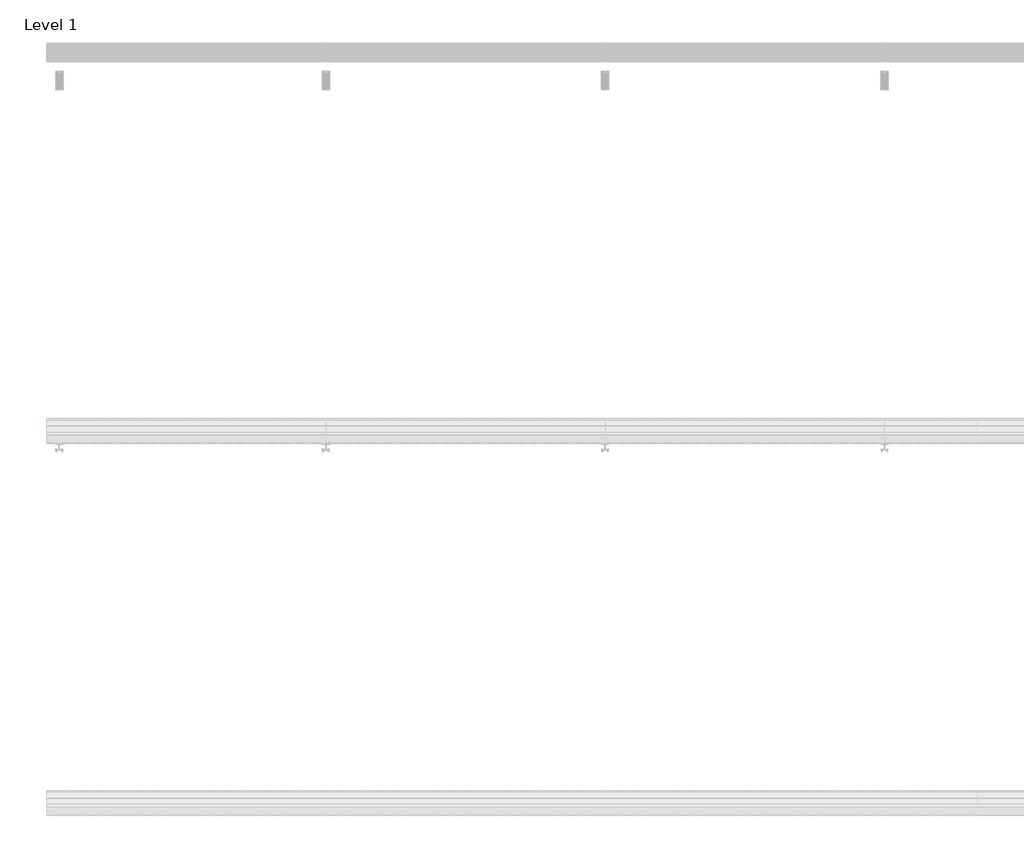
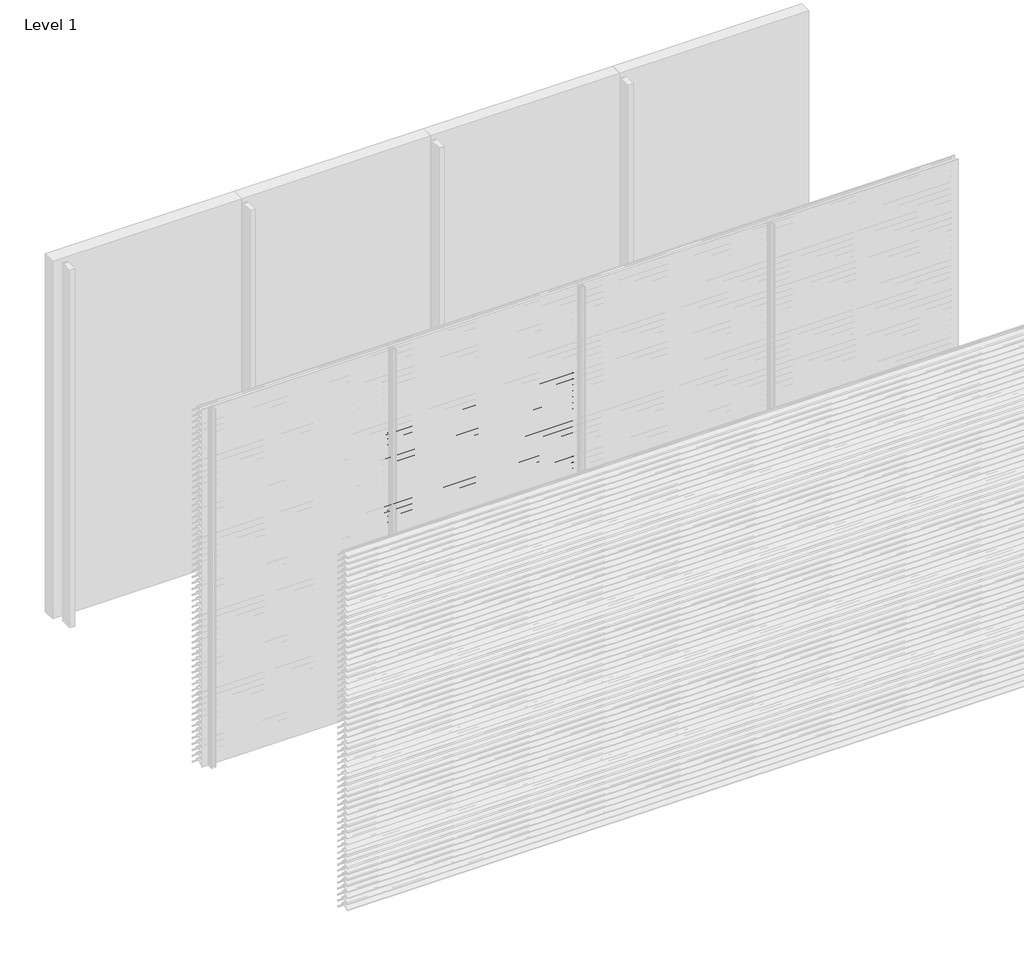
# One storey, part 45 of 173: 17 proxies.
"""IFC4 building model written with IfcOpenShell, lengths in millimetres."""

from ifc_helpers import new_model, si_unit, point, frame, frame_2d, origin, place, context, project, spatial, polyline, circle_curve, trimmed, segment, composite_curve, outline, extrude, element, save

model = new_model("IFC4")

# Units and contexts
model_context = context("Model", 3, world=origin())
ifc_project = project(units=[si_unit("LENGTHUNIT", "METRE", prefix="MILLI")], contexts=[model_context])

# Site, building, storey
site = spatial("IfcSite", under=ifc_project)
building = spatial("IfcBuilding", under=site)
storey = spatial("IfcBuildingStorey", under=building, Name="Level 1", Elevation=0.0)

# Proxies
placement = place(None, origin())
element("IfcBuildingElementProxy", 1, Name="Wall Sweeps", at=placement, inside=storey, context=model_context, shape_type="SweptSolid", body=[
    extrude(outline(composite_curve([segment(polyline([(-41998.0, 2209.1474905), (-41998.0, 2211.6227417)]), True, "CONTINUOUS"), segment(trimmed(circle_curve(frame_2d((-41951.2682172, 2166.2200208)), 65.1557103), [point((-41998.0, 2211.6227417))], [point((-41954.4014323, 2231.3003524))], False, "CARTESIAN"), True, "CONTINUOUS"), segment(polyline([(-41954.4014323, 2231.3003524), (-41934.8315836, 2231.3003524)]), True, "CONTINUOUS"), segment(trimmed(circle_curve(frame_2d((-41732.7329489, 2378.5533172)), 250.0545817), [point((-41934.8315836, 2231.3003524))], [point((-41941.4452143, 2240.8344583))], False, "CARTESIAN"), True, "CONTINUOUS"), segment(trimmed(circle_curve(frame_2d((-41953.2981792, 2235.1737835)), 13.1352966), [point((-41941.4452143, 2240.8344583))], [point((-41953.8171475, 2248.298824))], True, "CARTESIAN"), True, "CONTINUOUS"), segment(polyline([(-41953.8171475, 2248.298824), (-41953.8171475, 2250.0)]), True, "CONTINUOUS"), segment(trimmed(circle_curve(frame_2d((-41953.2981792, 2235.1737835)), 14.8352966), [point((-41953.8171475, 2250.0))], [point((-41939.9637661, 2241.6760487))], False, "CARTESIAN"), True, "CONTINUOUS"), segment(trimmed(circle_curve(frame_2d((-41732.7329489, 2378.5533172)), 248.3545817), [point((-41939.9637661, 2241.6760487))], [point((-41873.8787895, 2174.2059416))], True, "CARTESIAN"), True, "CONTINUOUS"), segment(trimmed(circle_curve(frame_2d((-41883.8147537, 2161.6649442)), 16.0), [point((-41873.8787895, 2174.2059416))], [point((-41867.8648347, 2160.4))], False, "CARTESIAN"), True, "CONTINUOUS"), segment(polyline([(-41867.8648347, 2160.4), (-41869.6712069, 2160.4)]), True, "CONTINUOUS"), segment(trimmed(circle_curve(frame_2d((-41883.8147537, 2161.6649442)), 14.2), [point((-41869.6712069, 2160.4))], [point((-41874.9518628, 2172.7594998))], True, "CARTESIAN"), True, "CONTINUOUS"), segment(trimmed(circle_curve(frame_2d((-41732.7329489, 2378.5533172)), 250.1545817), [point((-41874.9518628, 2172.7594998))], [point((-41933.7064024, 2229.6003524))], False, "CARTESIAN"), True, "CONTINUOUS"), segment(polyline([(-41933.7064024, 2229.6003524), (-41954.3602632, 2229.6003524)]), True, "CONTINUOUS"), segment(trimmed(circle_curve(frame_2d((-41951.2682172, 2166.2200208)), 63.4557103), [point((-41954.3602632, 2229.6003524))], [point((-41998.0, 2209.1474905))], True, "CARTESIAN"), True, "CONTINUOUS")], self_intersect=False)), frame((1500.0, 0.0, 0.0), z_axis=(1.0, 0.0, 0.0), x_axis=(0.0, 1.0, 0.0)), (0.0, 0.0, 1.0), 1500.0),
])
element("IfcBuildingElementProxy", 2, Name="Wall Sweeps", at=placement, inside=storey, context=model_context, shape_type="SweptSolid", body=[
    extrude(outline(composite_curve([segment(polyline([(-41998.0, 2159.1474905), (-41998.0, 2161.6227417)]), True, "CONTINUOUS"), segment(trimmed(circle_curve(frame_2d((-41951.2682172, 2116.2200208)), 65.1557103), [point((-41998.0, 2161.6227417))], [point((-41954.4014323, 2181.3003524))], False, "CARTESIAN"), True, "CONTINUOUS"), segment(polyline([(-41954.4014323, 2181.3003524), (-41934.8315836, 2181.3003524)]), True, "CONTINUOUS"), segment(trimmed(circle_curve(frame_2d((-41732.7329489, 2328.5533172)), 250.0545817), [point((-41934.8315836, 2181.3003524))], [point((-41941.4452143, 2190.8344583))], False, "CARTESIAN"), True, "CONTINUOUS"), segment(trimmed(circle_curve(frame_2d((-41953.2981792, 2185.1737835)), 13.1352966), [point((-41941.4452143, 2190.8344583))], [point((-41953.8171475, 2198.298824))], True, "CARTESIAN"), True, "CONTINUOUS"), segment(polyline([(-41953.8171475, 2198.298824), (-41953.8171475, 2200.0)]), True, "CONTINUOUS"), segment(trimmed(circle_curve(frame_2d((-41953.2981792, 2185.1737835)), 14.8352966), [point((-41953.8171475, 2200.0))], [point((-41939.9637661, 2191.6760487))], False, "CARTESIAN"), True, "CONTINUOUS"), segment(trimmed(circle_curve(frame_2d((-41732.7329489, 2328.5533172)), 248.3545817), [point((-41939.9637661, 2191.6760487))], [point((-41873.8787895, 2124.2059416))], True, "CARTESIAN"), True, "CONTINUOUS"), segment(trimmed(circle_curve(frame_2d((-41883.8147537, 2111.6649442)), 16.0), [point((-41873.8787895, 2124.2059416))], [point((-41867.8648347, 2110.4))], False, "CARTESIAN"), True, "CONTINUOUS"), segment(polyline([(-41867.8648347, 2110.4), (-41869.6712069, 2110.4)]), True, "CONTINUOUS"), segment(trimmed(circle_curve(frame_2d((-41883.8147537, 2111.6649442)), 14.2), [point((-41869.6712069, 2110.4))], [point((-41874.9518628, 2122.7594998))], True, "CARTESIAN"), True, "CONTINUOUS"), segment(trimmed(circle_curve(frame_2d((-41732.7329489, 2328.5533172)), 250.1545817), [point((-41874.9518628, 2122.7594998))], [point((-41933.7064024, 2179.6003524))], False, "CARTESIAN"), True, "CONTINUOUS"), segment(polyline([(-41933.7064024, 2179.6003524), (-41954.3602632, 2179.6003524)]), True, "CONTINUOUS"), segment(trimmed(circle_curve(frame_2d((-41951.2682172, 2116.2200208)), 63.4557103), [point((-41954.3602632, 2179.6003524))], [point((-41998.0, 2159.1474905))], True, "CARTESIAN"), True, "CONTINUOUS")], self_intersect=False)), frame((1500.0, 0.0, 0.0), z_axis=(1.0, 0.0, 0.0), x_axis=(0.0, 1.0, 0.0)), (0.0, 0.0, 1.0), 1500.0),
])
element("IfcBuildingElementProxy", 3, Name="Wall Sweeps", at=placement, inside=storey, context=model_context, shape_type="SweptSolid", body=[
    extrude(outline(composite_curve([segment(polyline([(-41998.0, 2109.1474905), (-41998.0, 2111.6227417)]), True, "CONTINUOUS"), segment(trimmed(circle_curve(frame_2d((-41951.2682172, 2066.2200208)), 65.1557103), [point((-41998.0, 2111.6227417))], [point((-41954.4014323, 2131.3003524))], False, "CARTESIAN"), True, "CONTINUOUS"), segment(polyline([(-41954.4014323, 2131.3003524), (-41934.8315836, 2131.3003524)]), True, "CONTINUOUS"), segment(trimmed(circle_curve(frame_2d((-41732.7329489, 2278.5533172)), 250.0545817), [point((-41934.8315836, 2131.3003524))], [point((-41941.4452143, 2140.8344583))], False, "CARTESIAN"), True, "CONTINUOUS"), segment(trimmed(circle_curve(frame_2d((-41953.2981792, 2135.1737835)), 13.1352966), [point((-41941.4452143, 2140.8344583))], [point((-41953.8171475, 2148.298824))], True, "CARTESIAN"), True, "CONTINUOUS"), segment(polyline([(-41953.8171475, 2148.298824), (-41953.8171475, 2150.0)]), True, "CONTINUOUS"), segment(trimmed(circle_curve(frame_2d((-41953.2981792, 2135.1737835)), 14.8352966), [point((-41953.8171475, 2150.0))], [point((-41939.9637661, 2141.6760487))], False, "CARTESIAN"), True, "CONTINUOUS"), segment(trimmed(circle_curve(frame_2d((-41732.7329489, 2278.5533172)), 248.3545817), [point((-41939.9637661, 2141.6760487))], [point((-41873.8787895, 2074.2059416))], True, "CARTESIAN"), True, "CONTINUOUS"), segment(trimmed(circle_curve(frame_2d((-41883.8147537, 2061.6649442)), 16.0), [point((-41873.8787895, 2074.2059416))], [point((-41867.8648347, 2060.4))], False, "CARTESIAN"), True, "CONTINUOUS"), segment(polyline([(-41867.8648347, 2060.4), (-41869.6712069, 2060.4)]), True, "CONTINUOUS"), segment(trimmed(circle_curve(frame_2d((-41883.8147537, 2061.6649442)), 14.2), [point((-41869.6712069, 2060.4))], [point((-41874.9518628, 2072.7594998))], True, "CARTESIAN"), True, "CONTINUOUS"), segment(trimmed(circle_curve(frame_2d((-41732.7329489, 2278.5533172)), 250.1545817), [point((-41874.9518628, 2072.7594998))], [point((-41933.7064024, 2129.6003524))], False, "CARTESIAN"), True, "CONTINUOUS"), segment(polyline([(-41933.7064024, 2129.6003524), (-41954.3602632, 2129.6003524)]), True, "CONTINUOUS"), segment(trimmed(circle_curve(frame_2d((-41951.2682172, 2066.2200208)), 63.4557103), [point((-41954.3602632, 2129.6003524))], [point((-41998.0, 2109.1474905))], True, "CARTESIAN"), True, "CONTINUOUS")], self_intersect=False)), frame((1500.0, 0.0, 0.0), z_axis=(1.0, 0.0, 0.0), x_axis=(0.0, 1.0, 0.0)), (0.0, 0.0, 1.0), 1500.0),
])
element("IfcBuildingElementProxy", 4, Name="Wall Sweeps", at=placement, inside=storey, context=model_context, shape_type="SweptSolid", body=[
    extrude(outline(composite_curve([segment(polyline([(-41998.0, 2059.1474905), (-41998.0, 2061.6227417)]), True, "CONTINUOUS"), segment(trimmed(circle_curve(frame_2d((-41951.2682172, 2016.2200208)), 65.1557103), [point((-41998.0, 2061.6227417))], [point((-41954.4014323, 2081.3003524))], False, "CARTESIAN"), True, "CONTINUOUS"), segment(polyline([(-41954.4014323, 2081.3003524), (-41934.8315836, 2081.3003524)]), True, "CONTINUOUS"), segment(trimmed(circle_curve(frame_2d((-41732.7329489, 2228.5533172)), 250.0545817), [point((-41934.8315836, 2081.3003524))], [point((-41941.4452143, 2090.8344583))], False, "CARTESIAN"), True, "CONTINUOUS"), segment(trimmed(circle_curve(frame_2d((-41953.2981792, 2085.1737835)), 13.1352966), [point((-41941.4452143, 2090.8344583))], [point((-41953.8171475, 2098.298824))], True, "CARTESIAN"), True, "CONTINUOUS"), segment(polyline([(-41953.8171475, 2098.298824), (-41953.8171475, 2100.0)]), True, "CONTINUOUS"), segment(trimmed(circle_curve(frame_2d((-41953.2981792, 2085.1737835)), 14.8352966), [point((-41953.8171475, 2100.0))], [point((-41939.9637661, 2091.6760487))], False, "CARTESIAN"), True, "CONTINUOUS"), segment(trimmed(circle_curve(frame_2d((-41732.7329489, 2228.5533172)), 248.3545817), [point((-41939.9637661, 2091.6760487))], [point((-41873.8787895, 2024.2059416))], True, "CARTESIAN"), True, "CONTINUOUS"), segment(trimmed(circle_curve(frame_2d((-41883.8147537, 2011.6649442)), 16.0), [point((-41873.8787895, 2024.2059416))], [point((-41867.8648347, 2010.4))], False, "CARTESIAN"), True, "CONTINUOUS"), segment(polyline([(-41867.8648347, 2010.4), (-41869.6712069, 2010.4)]), True, "CONTINUOUS"), segment(trimmed(circle_curve(frame_2d((-41883.8147537, 2011.6649442)), 14.2), [point((-41869.6712069, 2010.4))], [point((-41874.9518628, 2022.7594998))], True, "CARTESIAN"), True, "CONTINUOUS"), segment(trimmed(circle_curve(frame_2d((-41732.7329489, 2228.5533172)), 250.1545817), [point((-41874.9518628, 2022.7594998))], [point((-41933.7064024, 2079.6003524))], False, "CARTESIAN"), True, "CONTINUOUS"), segment(polyline([(-41933.7064024, 2079.6003524), (-41954.3602632, 2079.6003524)]), True, "CONTINUOUS"), segment(trimmed(circle_curve(frame_2d((-41951.2682172, 2016.2200208)), 63.4557103), [point((-41954.3602632, 2079.6003524))], [point((-41998.0, 2059.1474905))], True, "CARTESIAN"), True, "CONTINUOUS")], self_intersect=False)), frame((1500.0, 0.0, 0.0), z_axis=(1.0, 0.0, 0.0), x_axis=(0.0, 1.0, 0.0)), (0.0, 0.0, 1.0), 1500.0),
])
element("IfcBuildingElementProxy", 5, Name="Wall Sweeps", at=placement, inside=storey, context=model_context, shape_type="SweptSolid", body=[
    extrude(outline(composite_curve([segment(polyline([(-41998.0, 2009.1474905), (-41998.0, 2011.6227417)]), True, "CONTINUOUS"), segment(trimmed(circle_curve(frame_2d((-41951.2682172, 1966.2200208)), 65.1557103), [point((-41998.0, 2011.6227417))], [point((-41954.4014323, 2031.3003524))], False, "CARTESIAN"), True, "CONTINUOUS"), segment(polyline([(-41954.4014323, 2031.3003524), (-41934.8315836, 2031.3003524)]), True, "CONTINUOUS"), segment(trimmed(circle_curve(frame_2d((-41732.7329489, 2178.5533172)), 250.0545817), [point((-41934.8315836, 2031.3003524))], [point((-41941.4452143, 2040.8344583))], False, "CARTESIAN"), True, "CONTINUOUS"), segment(trimmed(circle_curve(frame_2d((-41953.2981792, 2035.1737835)), 13.1352966), [point((-41941.4452143, 2040.8344583))], [point((-41953.8171475, 2048.298824))], True, "CARTESIAN"), True, "CONTINUOUS"), segment(polyline([(-41953.8171475, 2048.298824), (-41953.8171475, 2050.0)]), True, "CONTINUOUS"), segment(trimmed(circle_curve(frame_2d((-41953.2981792, 2035.1737835)), 14.8352966), [point((-41953.8171475, 2050.0))], [point((-41939.9637661, 2041.6760487))], False, "CARTESIAN"), True, "CONTINUOUS"), segment(trimmed(circle_curve(frame_2d((-41732.7329489, 2178.5533172)), 248.3545817), [point((-41939.9637661, 2041.6760487))], [point((-41873.8787895, 1974.2059416))], True, "CARTESIAN"), True, "CONTINUOUS"), segment(trimmed(circle_curve(frame_2d((-41883.8147537, 1961.6649442)), 16.0), [point((-41873.8787895, 1974.2059416))], [point((-41867.8648347, 1960.4))], False, "CARTESIAN"), True, "CONTINUOUS"), segment(polyline([(-41867.8648347, 1960.4), (-41869.6712069, 1960.4)]), True, "CONTINUOUS"), segment(trimmed(circle_curve(frame_2d((-41883.8147537, 1961.6649442)), 14.2), [point((-41869.6712069, 1960.4))], [point((-41874.9518628, 1972.7594998))], True, "CARTESIAN"), True, "CONTINUOUS"), segment(trimmed(circle_curve(frame_2d((-41732.7329489, 2178.5533172)), 250.1545817), [point((-41874.9518628, 1972.7594998))], [point((-41933.7064024, 2029.6003524))], False, "CARTESIAN"), True, "CONTINUOUS"), segment(polyline([(-41933.7064024, 2029.6003524), (-41954.3602632, 2029.6003524)]), True, "CONTINUOUS"), segment(trimmed(circle_curve(frame_2d((-41951.2682172, 1966.2200208)), 63.4557103), [point((-41954.3602632, 2029.6003524))], [point((-41998.0, 2009.1474905))], True, "CARTESIAN"), True, "CONTINUOUS")], self_intersect=False)), frame((1500.0, 0.0, 0.0), z_axis=(1.0, 0.0, 0.0), x_axis=(0.0, 1.0, 0.0)), (0.0, 0.0, 1.0), 1500.0),
])
element("IfcBuildingElementProxy", 6, Name="Wall Sweeps", at=placement, inside=storey, context=model_context, shape_type="SweptSolid", body=[
    extrude(outline(composite_curve([segment(polyline([(-41998.0, 1959.1474905), (-41998.0, 1961.6227417)]), True, "CONTINUOUS"), segment(trimmed(circle_curve(frame_2d((-41951.2682172, 1916.2200208)), 65.1557103), [point((-41998.0, 1961.6227417))], [point((-41954.4014323, 1981.3003524))], False, "CARTESIAN"), True, "CONTINUOUS"), segment(polyline([(-41954.4014323, 1981.3003524), (-41934.8315836, 1981.3003524)]), True, "CONTINUOUS"), segment(trimmed(circle_curve(frame_2d((-41732.7329489, 2128.5533172)), 250.0545817), [point((-41934.8315836, 1981.3003524))], [point((-41941.4452143, 1990.8344583))], False, "CARTESIAN"), True, "CONTINUOUS"), segment(trimmed(circle_curve(frame_2d((-41953.2981792, 1985.1737835)), 13.1352966), [point((-41941.4452143, 1990.8344583))], [point((-41953.8171475, 1998.298824))], True, "CARTESIAN"), True, "CONTINUOUS"), segment(polyline([(-41953.8171475, 1998.298824), (-41953.8171475, 2000.0)]), True, "CONTINUOUS"), segment(trimmed(circle_curve(frame_2d((-41953.2981792, 1985.1737835)), 14.8352966), [point((-41953.8171475, 2000.0))], [point((-41939.9637661, 1991.6760487))], False, "CARTESIAN"), True, "CONTINUOUS"), segment(trimmed(circle_curve(frame_2d((-41732.7329489, 2128.5533172)), 248.3545817), [point((-41939.9637661, 1991.6760487))], [point((-41873.8787895, 1924.2059416))], True, "CARTESIAN"), True, "CONTINUOUS"), segment(trimmed(circle_curve(frame_2d((-41883.8147537, 1911.6649442)), 16.0), [point((-41873.8787895, 1924.2059416))], [point((-41867.8648347, 1910.4))], False, "CARTESIAN"), True, "CONTINUOUS"), segment(polyline([(-41867.8648347, 1910.4), (-41869.6712069, 1910.4)]), True, "CONTINUOUS"), segment(trimmed(circle_curve(frame_2d((-41883.8147537, 1911.6649442)), 14.2), [point((-41869.6712069, 1910.4))], [point((-41874.9518628, 1922.7594998))], True, "CARTESIAN"), True, "CONTINUOUS"), segment(trimmed(circle_curve(frame_2d((-41732.7329489, 2128.5533172)), 250.1545817), [point((-41874.9518628, 1922.7594998))], [point((-41933.7064024, 1979.6003524))], False, "CARTESIAN"), True, "CONTINUOUS"), segment(polyline([(-41933.7064024, 1979.6003524), (-41954.3602632, 1979.6003524)]), True, "CONTINUOUS"), segment(trimmed(circle_curve(frame_2d((-41951.2682172, 1916.2200208)), 63.4557103), [point((-41954.3602632, 1979.6003524))], [point((-41998.0, 1959.1474905))], True, "CARTESIAN"), True, "CONTINUOUS")], self_intersect=False)), frame((1500.0, 0.0, 0.0), z_axis=(1.0, 0.0, 0.0), x_axis=(0.0, 1.0, 0.0)), (0.0, 0.0, 1.0), 1500.0),
])
element("IfcBuildingElementProxy", 7, Name="Wall Sweeps", at=placement, inside=storey, context=model_context, shape_type="SweptSolid", body=[
    extrude(outline(composite_curve([segment(polyline([(-41998.0, 1909.1474905), (-41998.0, 1911.6227417)]), True, "CONTINUOUS"), segment(trimmed(circle_curve(frame_2d((-41951.2682172, 1866.2200208)), 65.1557103), [point((-41998.0, 1911.6227417))], [point((-41954.4014323, 1931.3003524))], False, "CARTESIAN"), True, "CONTINUOUS"), segment(polyline([(-41954.4014323, 1931.3003524), (-41934.8315836, 1931.3003524)]), True, "CONTINUOUS"), segment(trimmed(circle_curve(frame_2d((-41732.7329489, 2078.5533172)), 250.0545817), [point((-41934.8315836, 1931.3003524))], [point((-41941.4452143, 1940.8344583))], False, "CARTESIAN"), True, "CONTINUOUS"), segment(trimmed(circle_curve(frame_2d((-41953.2981792, 1935.1737835)), 13.1352966), [point((-41941.4452143, 1940.8344583))], [point((-41953.8171475, 1948.298824))], True, "CARTESIAN"), True, "CONTINUOUS"), segment(polyline([(-41953.8171475, 1948.298824), (-41953.8171475, 1950.0)]), True, "CONTINUOUS"), segment(trimmed(circle_curve(frame_2d((-41953.2981792, 1935.1737835)), 14.8352966), [point((-41953.8171475, 1950.0))], [point((-41939.9637661, 1941.6760487))], False, "CARTESIAN"), True, "CONTINUOUS"), segment(trimmed(circle_curve(frame_2d((-41732.7329489, 2078.5533172)), 248.3545817), [point((-41939.9637661, 1941.6760487))], [point((-41873.8787895, 1874.2059416))], True, "CARTESIAN"), True, "CONTINUOUS"), segment(trimmed(circle_curve(frame_2d((-41883.8147537, 1861.6649442)), 16.0), [point((-41873.8787895, 1874.2059416))], [point((-41867.8648347, 1860.4))], False, "CARTESIAN"), True, "CONTINUOUS"), segment(polyline([(-41867.8648347, 1860.4), (-41869.6712069, 1860.4)]), True, "CONTINUOUS"), segment(trimmed(circle_curve(frame_2d((-41883.8147537, 1861.6649442)), 14.2), [point((-41869.6712069, 1860.4))], [point((-41874.9518628, 1872.7594998))], True, "CARTESIAN"), True, "CONTINUOUS"), segment(trimmed(circle_curve(frame_2d((-41732.7329489, 2078.5533172)), 250.1545817), [point((-41874.9518628, 1872.7594998))], [point((-41933.7064024, 1929.6003524))], False, "CARTESIAN"), True, "CONTINUOUS"), segment(polyline([(-41933.7064024, 1929.6003524), (-41954.3602632, 1929.6003524)]), True, "CONTINUOUS"), segment(trimmed(circle_curve(frame_2d((-41951.2682172, 1866.2200208)), 63.4557103), [point((-41954.3602632, 1929.6003524))], [point((-41998.0, 1909.1474905))], True, "CARTESIAN"), True, "CONTINUOUS")], self_intersect=False)), frame((1500.0, 0.0, 0.0), z_axis=(1.0, 0.0, 0.0), x_axis=(0.0, 1.0, 0.0)), (0.0, 0.0, 1.0), 1500.0),
])
element("IfcBuildingElementProxy", 8, Name="Wall Sweeps", at=placement, inside=storey, context=model_context, shape_type="SweptSolid", body=[
    extrude(outline(composite_curve([segment(polyline([(-41998.0, 1859.1474905), (-41998.0, 1861.6227417)]), True, "CONTINUOUS"), segment(trimmed(circle_curve(frame_2d((-41951.2682172, 1816.2200208)), 65.1557103), [point((-41998.0, 1861.6227417))], [point((-41954.4014323, 1881.3003524))], False, "CARTESIAN"), True, "CONTINUOUS"), segment(polyline([(-41954.4014323, 1881.3003524), (-41934.8315836, 1881.3003524)]), True, "CONTINUOUS"), segment(trimmed(circle_curve(frame_2d((-41732.7329489, 2028.5533172)), 250.0545817), [point((-41934.8315836, 1881.3003524))], [point((-41941.4452143, 1890.8344583))], False, "CARTESIAN"), True, "CONTINUOUS"), segment(trimmed(circle_curve(frame_2d((-41953.2981792, 1885.1737835)), 13.1352966), [point((-41941.4452143, 1890.8344583))], [point((-41953.8171475, 1898.298824))], True, "CARTESIAN"), True, "CONTINUOUS"), segment(polyline([(-41953.8171475, 1898.298824), (-41953.8171475, 1900.0)]), True, "CONTINUOUS"), segment(trimmed(circle_curve(frame_2d((-41953.2981792, 1885.1737835)), 14.8352966), [point((-41953.8171475, 1900.0))], [point((-41939.9637661, 1891.6760487))], False, "CARTESIAN"), True, "CONTINUOUS"), segment(trimmed(circle_curve(frame_2d((-41732.7329489, 2028.5533172)), 248.3545817), [point((-41939.9637661, 1891.6760487))], [point((-41873.8787895, 1824.2059416))], True, "CARTESIAN"), True, "CONTINUOUS"), segment(trimmed(circle_curve(frame_2d((-41883.8147537, 1811.6649442)), 16.0), [point((-41873.8787895, 1824.2059416))], [point((-41867.8648347, 1810.4))], False, "CARTESIAN"), True, "CONTINUOUS"), segment(polyline([(-41867.8648347, 1810.4), (-41869.6712069, 1810.4)]), True, "CONTINUOUS"), segment(trimmed(circle_curve(frame_2d((-41883.8147537, 1811.6649442)), 14.2), [point((-41869.6712069, 1810.4))], [point((-41874.9518628, 1822.7594998))], True, "CARTESIAN"), True, "CONTINUOUS"), segment(trimmed(circle_curve(frame_2d((-41732.7329489, 2028.5533172)), 250.1545817), [point((-41874.9518628, 1822.7594998))], [point((-41933.7064024, 1879.6003524))], False, "CARTESIAN"), True, "CONTINUOUS"), segment(polyline([(-41933.7064024, 1879.6003524), (-41954.3602632, 1879.6003524)]), True, "CONTINUOUS"), segment(trimmed(circle_curve(frame_2d((-41951.2682172, 1816.2200208)), 63.4557103), [point((-41954.3602632, 1879.6003524))], [point((-41998.0, 1859.1474905))], True, "CARTESIAN"), True, "CONTINUOUS")], self_intersect=False)), frame((1500.0, 0.0, 0.0), z_axis=(1.0, 0.0, 0.0), x_axis=(0.0, 1.0, 0.0)), (0.0, 0.0, 1.0), 1500.0),
])
element("IfcBuildingElementProxy", 9, Name="Wall Sweeps", at=placement, inside=storey, context=model_context, shape_type="SweptSolid", body=[
    extrude(outline(composite_curve([segment(polyline([(-41998.0, 1809.1474905), (-41998.0, 1811.6227417)]), True, "CONTINUOUS"), segment(trimmed(circle_curve(frame_2d((-41951.2682172, 1766.2200208)), 65.1557103), [point((-41998.0, 1811.6227417))], [point((-41954.4014323, 1831.3003524))], False, "CARTESIAN"), True, "CONTINUOUS"), segment(polyline([(-41954.4014323, 1831.3003524), (-41934.8315836, 1831.3003524)]), True, "CONTINUOUS"), segment(trimmed(circle_curve(frame_2d((-41732.7329489, 1978.5533172)), 250.0545817), [point((-41934.8315836, 1831.3003524))], [point((-41941.4452143, 1840.8344583))], False, "CARTESIAN"), True, "CONTINUOUS"), segment(trimmed(circle_curve(frame_2d((-41953.2981792, 1835.1737835)), 13.1352966), [point((-41941.4452143, 1840.8344583))], [point((-41953.8171475, 1848.298824))], True, "CARTESIAN"), True, "CONTINUOUS"), segment(polyline([(-41953.8171475, 1848.298824), (-41953.8171475, 1850.0)]), True, "CONTINUOUS"), segment(trimmed(circle_curve(frame_2d((-41953.2981792, 1835.1737835)), 14.8352966), [point((-41953.8171475, 1850.0))], [point((-41939.9637661, 1841.6760487))], False, "CARTESIAN"), True, "CONTINUOUS"), segment(trimmed(circle_curve(frame_2d((-41732.7329489, 1978.5533172)), 248.3545817), [point((-41939.9637661, 1841.6760487))], [point((-41873.8787895, 1774.2059416))], True, "CARTESIAN"), True, "CONTINUOUS"), segment(trimmed(circle_curve(frame_2d((-41883.8147537, 1761.6649442)), 16.0), [point((-41873.8787895, 1774.2059416))], [point((-41867.8648347, 1760.4))], False, "CARTESIAN"), True, "CONTINUOUS"), segment(polyline([(-41867.8648347, 1760.4), (-41869.6712069, 1760.4)]), True, "CONTINUOUS"), segment(trimmed(circle_curve(frame_2d((-41883.8147537, 1761.6649442)), 14.2), [point((-41869.6712069, 1760.4))], [point((-41874.9518628, 1772.7594998))], True, "CARTESIAN"), True, "CONTINUOUS"), segment(trimmed(circle_curve(frame_2d((-41732.7329489, 1978.5533172)), 250.1545817), [point((-41874.9518628, 1772.7594998))], [point((-41933.7064024, 1829.6003524))], False, "CARTESIAN"), True, "CONTINUOUS"), segment(polyline([(-41933.7064024, 1829.6003524), (-41954.3602632, 1829.6003524)]), True, "CONTINUOUS"), segment(trimmed(circle_curve(frame_2d((-41951.2682172, 1766.2200208)), 63.4557103), [point((-41954.3602632, 1829.6003524))], [point((-41998.0, 1809.1474905))], True, "CARTESIAN"), True, "CONTINUOUS")], self_intersect=False)), frame((1500.0, 0.0, 0.0), z_axis=(1.0, 0.0, 0.0), x_axis=(0.0, 1.0, 0.0)), (0.0, 0.0, 1.0), 1500.0),
])
element("IfcBuildingElementProxy", 10, Name="Wall Sweeps", at=placement, inside=storey, context=model_context, shape_type="SweptSolid", body=[
    extrude(outline(composite_curve([segment(polyline([(-41998.0, 1759.1474905), (-41998.0, 1761.6227417)]), True, "CONTINUOUS"), segment(trimmed(circle_curve(frame_2d((-41951.2682172, 1716.2200208)), 65.1557103), [point((-41998.0, 1761.6227417))], [point((-41954.4014323, 1781.3003524))], False, "CARTESIAN"), True, "CONTINUOUS"), segment(polyline([(-41954.4014323, 1781.3003524), (-41934.8315836, 1781.3003524)]), True, "CONTINUOUS"), segment(trimmed(circle_curve(frame_2d((-41732.7329489, 1928.5533172)), 250.0545817), [point((-41934.8315836, 1781.3003524))], [point((-41941.4452143, 1790.8344583))], False, "CARTESIAN"), True, "CONTINUOUS"), segment(trimmed(circle_curve(frame_2d((-41953.2981792, 1785.1737835)), 13.1352966), [point((-41941.4452143, 1790.8344583))], [point((-41953.8171475, 1798.298824))], True, "CARTESIAN"), True, "CONTINUOUS"), segment(polyline([(-41953.8171475, 1798.298824), (-41953.8171475, 1800.0)]), True, "CONTINUOUS"), segment(trimmed(circle_curve(frame_2d((-41953.2981792, 1785.1737835)), 14.8352966), [point((-41953.8171475, 1800.0))], [point((-41939.9637661, 1791.6760487))], False, "CARTESIAN"), True, "CONTINUOUS"), segment(trimmed(circle_curve(frame_2d((-41732.7329489, 1928.5533172)), 248.3545817), [point((-41939.9637661, 1791.6760487))], [point((-41873.8787895, 1724.2059416))], True, "CARTESIAN"), True, "CONTINUOUS"), segment(trimmed(circle_curve(frame_2d((-41883.8147537, 1711.6649442)), 16.0), [point((-41873.8787895, 1724.2059416))], [point((-41867.8648347, 1710.4))], False, "CARTESIAN"), True, "CONTINUOUS"), segment(polyline([(-41867.8648347, 1710.4), (-41869.6712069, 1710.4)]), True, "CONTINUOUS"), segment(trimmed(circle_curve(frame_2d((-41883.8147537, 1711.6649442)), 14.2), [point((-41869.6712069, 1710.4))], [point((-41874.9518628, 1722.7594998))], True, "CARTESIAN"), True, "CONTINUOUS"), segment(trimmed(circle_curve(frame_2d((-41732.7329489, 1928.5533172)), 250.1545817), [point((-41874.9518628, 1722.7594998))], [point((-41933.7064024, 1779.6003524))], False, "CARTESIAN"), True, "CONTINUOUS"), segment(polyline([(-41933.7064024, 1779.6003524), (-41954.3602632, 1779.6003524)]), True, "CONTINUOUS"), segment(trimmed(circle_curve(frame_2d((-41951.2682172, 1716.2200208)), 63.4557103), [point((-41954.3602632, 1779.6003524))], [point((-41998.0, 1759.1474905))], True, "CARTESIAN"), True, "CONTINUOUS")], self_intersect=False)), frame((1500.0, 0.0, 0.0), z_axis=(1.0, 0.0, 0.0), x_axis=(0.0, 1.0, 0.0)), (0.0, 0.0, 1.0), 1500.0),
])
element("IfcBuildingElementProxy", 11, Name="Wall Sweeps", at=placement, inside=storey, context=model_context, shape_type="SweptSolid", body=[
    extrude(outline(composite_curve([segment(polyline([(-41998.0, 1709.1474905), (-41998.0, 1711.6227417)]), True, "CONTINUOUS"), segment(trimmed(circle_curve(frame_2d((-41951.2682172, 1666.2200208)), 65.1557103), [point((-41998.0, 1711.6227417))], [point((-41954.4014323, 1731.3003524))], False, "CARTESIAN"), True, "CONTINUOUS"), segment(polyline([(-41954.4014323, 1731.3003524), (-41934.8315836, 1731.3003524)]), True, "CONTINUOUS"), segment(trimmed(circle_curve(frame_2d((-41732.7329489, 1878.5533172)), 250.0545817), [point((-41934.8315836, 1731.3003524))], [point((-41941.4452143, 1740.8344583))], False, "CARTESIAN"), True, "CONTINUOUS"), segment(trimmed(circle_curve(frame_2d((-41953.2981792, 1735.1737835)), 13.1352966), [point((-41941.4452143, 1740.8344583))], [point((-41953.8171475, 1748.298824))], True, "CARTESIAN"), True, "CONTINUOUS"), segment(polyline([(-41953.8171475, 1748.298824), (-41953.8171475, 1750.0)]), True, "CONTINUOUS"), segment(trimmed(circle_curve(frame_2d((-41953.2981792, 1735.1737835)), 14.8352966), [point((-41953.8171475, 1750.0))], [point((-41939.9637661, 1741.6760487))], False, "CARTESIAN"), True, "CONTINUOUS"), segment(trimmed(circle_curve(frame_2d((-41732.7329489, 1878.5533172)), 248.3545817), [point((-41939.9637661, 1741.6760487))], [point((-41873.8787895, 1674.2059416))], True, "CARTESIAN"), True, "CONTINUOUS"), segment(trimmed(circle_curve(frame_2d((-41883.8147537, 1661.6649442)), 16.0), [point((-41873.8787895, 1674.2059416))], [point((-41867.8648347, 1660.4))], False, "CARTESIAN"), True, "CONTINUOUS"), segment(polyline([(-41867.8648347, 1660.4), (-41869.6712069, 1660.4)]), True, "CONTINUOUS"), segment(trimmed(circle_curve(frame_2d((-41883.8147537, 1661.6649442)), 14.2), [point((-41869.6712069, 1660.4))], [point((-41874.9518628, 1672.7594998))], True, "CARTESIAN"), True, "CONTINUOUS"), segment(trimmed(circle_curve(frame_2d((-41732.7329489, 1878.5533172)), 250.1545817), [point((-41874.9518628, 1672.7594998))], [point((-41933.7064024, 1729.6003524))], False, "CARTESIAN"), True, "CONTINUOUS"), segment(polyline([(-41933.7064024, 1729.6003524), (-41954.3602632, 1729.6003524)]), True, "CONTINUOUS"), segment(trimmed(circle_curve(frame_2d((-41951.2682172, 1666.2200208)), 63.4557103), [point((-41954.3602632, 1729.6003524))], [point((-41998.0, 1709.1474905))], True, "CARTESIAN"), True, "CONTINUOUS")], self_intersect=False)), frame((1500.0, 0.0, 0.0), z_axis=(1.0, 0.0, 0.0), x_axis=(0.0, 1.0, 0.0)), (0.0, 0.0, 1.0), 1500.0),
])
element("IfcBuildingElementProxy", 12, Name="Wall Sweeps", at=placement, inside=storey, context=model_context, shape_type="SweptSolid", body=[
    extrude(outline(composite_curve([segment(polyline([(-41998.0, 1659.1474905), (-41998.0, 1661.6227417)]), True, "CONTINUOUS"), segment(trimmed(circle_curve(frame_2d((-41951.2682172, 1616.2200208)), 65.1557103), [point((-41998.0, 1661.6227417))], [point((-41954.4014323, 1681.3003524))], False, "CARTESIAN"), True, "CONTINUOUS"), segment(polyline([(-41954.4014323, 1681.3003524), (-41934.8315836, 1681.3003524)]), True, "CONTINUOUS"), segment(trimmed(circle_curve(frame_2d((-41732.7329489, 1828.5533172)), 250.0545817), [point((-41934.8315836, 1681.3003524))], [point((-41941.4452143, 1690.8344583))], False, "CARTESIAN"), True, "CONTINUOUS"), segment(trimmed(circle_curve(frame_2d((-41953.2981792, 1685.1737835)), 13.1352966), [point((-41941.4452143, 1690.8344583))], [point((-41953.8171475, 1698.298824))], True, "CARTESIAN"), True, "CONTINUOUS"), segment(polyline([(-41953.8171475, 1698.298824), (-41953.8171475, 1700.0)]), True, "CONTINUOUS"), segment(trimmed(circle_curve(frame_2d((-41953.2981792, 1685.1737835)), 14.8352966), [point((-41953.8171475, 1700.0))], [point((-41939.9637661, 1691.6760487))], False, "CARTESIAN"), True, "CONTINUOUS"), segment(trimmed(circle_curve(frame_2d((-41732.7329489, 1828.5533172)), 248.3545817), [point((-41939.9637661, 1691.6760487))], [point((-41873.8787895, 1624.2059416))], True, "CARTESIAN"), True, "CONTINUOUS"), segment(trimmed(circle_curve(frame_2d((-41883.8147537, 1611.6649442)), 16.0), [point((-41873.8787895, 1624.2059416))], [point((-41867.8648347, 1610.4))], False, "CARTESIAN"), True, "CONTINUOUS"), segment(polyline([(-41867.8648347, 1610.4), (-41869.6712069, 1610.4)]), True, "CONTINUOUS"), segment(trimmed(circle_curve(frame_2d((-41883.8147537, 1611.6649442)), 14.2), [point((-41869.6712069, 1610.4))], [point((-41874.9518628, 1622.7594998))], True, "CARTESIAN"), True, "CONTINUOUS"), segment(trimmed(circle_curve(frame_2d((-41732.7329489, 1828.5533172)), 250.1545817), [point((-41874.9518628, 1622.7594998))], [point((-41933.7064024, 1679.6003524))], False, "CARTESIAN"), True, "CONTINUOUS"), segment(polyline([(-41933.7064024, 1679.6003524), (-41954.3602632, 1679.6003524)]), True, "CONTINUOUS"), segment(trimmed(circle_curve(frame_2d((-41951.2682172, 1616.2200208)), 63.4557103), [point((-41954.3602632, 1679.6003524))], [point((-41998.0, 1659.1474905))], True, "CARTESIAN"), True, "CONTINUOUS")], self_intersect=False)), frame((1500.0, 0.0, 0.0), z_axis=(1.0, 0.0, 0.0), x_axis=(0.0, 1.0, 0.0)), (0.0, 0.0, 1.0), 1500.0),
])
element("IfcBuildingElementProxy", 13, Name="Wall Sweeps", at=placement, inside=storey, context=model_context, shape_type="SweptSolid", body=[
    extrude(outline(composite_curve([segment(polyline([(-41998.0, 1609.1474905), (-41998.0, 1611.6227417)]), True, "CONTINUOUS"), segment(trimmed(circle_curve(frame_2d((-41951.2682172, 1566.2200208)), 65.1557103), [point((-41998.0, 1611.6227417))], [point((-41954.4014323, 1631.3003524))], False, "CARTESIAN"), True, "CONTINUOUS"), segment(polyline([(-41954.4014323, 1631.3003524), (-41934.8315836, 1631.3003524)]), True, "CONTINUOUS"), segment(trimmed(circle_curve(frame_2d((-41732.7329489, 1778.5533172)), 250.0545817), [point((-41934.8315836, 1631.3003524))], [point((-41941.4452143, 1640.8344583))], False, "CARTESIAN"), True, "CONTINUOUS"), segment(trimmed(circle_curve(frame_2d((-41953.2981792, 1635.1737835)), 13.1352966), [point((-41941.4452143, 1640.8344583))], [point((-41953.8171475, 1648.298824))], True, "CARTESIAN"), True, "CONTINUOUS"), segment(polyline([(-41953.8171475, 1648.298824), (-41953.8171475, 1650.0)]), True, "CONTINUOUS"), segment(trimmed(circle_curve(frame_2d((-41953.2981792, 1635.1737835)), 14.8352966), [point((-41953.8171475, 1650.0))], [point((-41939.9637661, 1641.6760487))], False, "CARTESIAN"), True, "CONTINUOUS"), segment(trimmed(circle_curve(frame_2d((-41732.7329489, 1778.5533172)), 248.3545817), [point((-41939.9637661, 1641.6760487))], [point((-41873.8787895, 1574.2059416))], True, "CARTESIAN"), True, "CONTINUOUS"), segment(trimmed(circle_curve(frame_2d((-41883.8147537, 1561.6649442)), 16.0), [point((-41873.8787895, 1574.2059416))], [point((-41867.8648347, 1560.4))], False, "CARTESIAN"), True, "CONTINUOUS"), segment(polyline([(-41867.8648347, 1560.4), (-41869.6712069, 1560.4)]), True, "CONTINUOUS"), segment(trimmed(circle_curve(frame_2d((-41883.8147537, 1561.6649442)), 14.2), [point((-41869.6712069, 1560.4))], [point((-41874.9518628, 1572.7594998))], True, "CARTESIAN"), True, "CONTINUOUS"), segment(trimmed(circle_curve(frame_2d((-41732.7329489, 1778.5533172)), 250.1545817), [point((-41874.9518628, 1572.7594998))], [point((-41933.7064024, 1629.6003524))], False, "CARTESIAN"), True, "CONTINUOUS"), segment(polyline([(-41933.7064024, 1629.6003524), (-41954.3602632, 1629.6003524)]), True, "CONTINUOUS"), segment(trimmed(circle_curve(frame_2d((-41951.2682172, 1566.2200208)), 63.4557103), [point((-41954.3602632, 1629.6003524))], [point((-41998.0, 1609.1474905))], True, "CARTESIAN"), True, "CONTINUOUS")], self_intersect=False)), frame((1500.0, 0.0, 0.0), z_axis=(1.0, 0.0, 0.0), x_axis=(0.0, 1.0, 0.0)), (0.0, 0.0, 1.0), 1500.0),
])
element("IfcBuildingElementProxy", 14, Name="Wall Sweeps", at=placement, inside=storey, context=model_context, shape_type="SweptSolid", body=[
    extrude(outline(composite_curve([segment(polyline([(-41998.0, 1559.1474905), (-41998.0, 1561.6227417)]), True, "CONTINUOUS"), segment(trimmed(circle_curve(frame_2d((-41951.2682172, 1516.2200208)), 65.1557103), [point((-41998.0, 1561.6227417))], [point((-41954.4014323, 1581.3003524))], False, "CARTESIAN"), True, "CONTINUOUS"), segment(polyline([(-41954.4014323, 1581.3003524), (-41934.8315836, 1581.3003524)]), True, "CONTINUOUS"), segment(trimmed(circle_curve(frame_2d((-41732.7329489, 1728.5533172)), 250.0545817), [point((-41934.8315836, 1581.3003524))], [point((-41941.4452143, 1590.8344583))], False, "CARTESIAN"), True, "CONTINUOUS"), segment(trimmed(circle_curve(frame_2d((-41953.2981792, 1585.1737835)), 13.1352966), [point((-41941.4452143, 1590.8344583))], [point((-41953.8171475, 1598.298824))], True, "CARTESIAN"), True, "CONTINUOUS"), segment(polyline([(-41953.8171475, 1598.298824), (-41953.8171475, 1600.0)]), True, "CONTINUOUS"), segment(trimmed(circle_curve(frame_2d((-41953.2981792, 1585.1737835)), 14.8352966), [point((-41953.8171475, 1600.0))], [point((-41939.9637661, 1591.6760487))], False, "CARTESIAN"), True, "CONTINUOUS"), segment(trimmed(circle_curve(frame_2d((-41732.7329489, 1728.5533172)), 248.3545817), [point((-41939.9637661, 1591.6760487))], [point((-41873.8787895, 1524.2059416))], True, "CARTESIAN"), True, "CONTINUOUS"), segment(trimmed(circle_curve(frame_2d((-41883.8147537, 1511.6649442)), 16.0), [point((-41873.8787895, 1524.2059416))], [point((-41867.8648347, 1510.4))], False, "CARTESIAN"), True, "CONTINUOUS"), segment(polyline([(-41867.8648347, 1510.4), (-41869.6712069, 1510.4)]), True, "CONTINUOUS"), segment(trimmed(circle_curve(frame_2d((-41883.8147537, 1511.6649442)), 14.2), [point((-41869.6712069, 1510.4))], [point((-41874.9518628, 1522.7594998))], True, "CARTESIAN"), True, "CONTINUOUS"), segment(trimmed(circle_curve(frame_2d((-41732.7329489, 1728.5533172)), 250.1545817), [point((-41874.9518628, 1522.7594998))], [point((-41933.7064024, 1579.6003524))], False, "CARTESIAN"), True, "CONTINUOUS"), segment(polyline([(-41933.7064024, 1579.6003524), (-41954.3602632, 1579.6003524)]), True, "CONTINUOUS"), segment(trimmed(circle_curve(frame_2d((-41951.2682172, 1516.2200208)), 63.4557103), [point((-41954.3602632, 1579.6003524))], [point((-41998.0, 1559.1474905))], True, "CARTESIAN"), True, "CONTINUOUS")], self_intersect=False)), frame((1500.0, 0.0, 0.0), z_axis=(1.0, 0.0, 0.0), x_axis=(0.0, 1.0, 0.0)), (0.0, 0.0, 1.0), 1500.0),
])
element("IfcBuildingElementProxy", 15, Name="Wall Sweeps", at=placement, inside=storey, context=model_context, shape_type="SweptSolid", body=[
    extrude(outline(composite_curve([segment(polyline([(-41998.0, 1509.1474905), (-41998.0, 1511.6227417)]), True, "CONTINUOUS"), segment(trimmed(circle_curve(frame_2d((-41951.2682172, 1466.2200208)), 65.1557103), [point((-41998.0, 1511.6227417))], [point((-41954.4014323, 1531.3003524))], False, "CARTESIAN"), True, "CONTINUOUS"), segment(polyline([(-41954.4014323, 1531.3003524), (-41934.8315836, 1531.3003524)]), True, "CONTINUOUS"), segment(trimmed(circle_curve(frame_2d((-41732.7329489, 1678.5533172)), 250.0545817), [point((-41934.8315836, 1531.3003524))], [point((-41941.4452143, 1540.8344583))], False, "CARTESIAN"), True, "CONTINUOUS"), segment(trimmed(circle_curve(frame_2d((-41953.2981792, 1535.1737835)), 13.1352966), [point((-41941.4452143, 1540.8344583))], [point((-41953.8171475, 1548.298824))], True, "CARTESIAN"), True, "CONTINUOUS"), segment(polyline([(-41953.8171475, 1548.298824), (-41953.8171475, 1550.0)]), True, "CONTINUOUS"), segment(trimmed(circle_curve(frame_2d((-41953.2981792, 1535.1737835)), 14.8352966), [point((-41953.8171475, 1550.0))], [point((-41939.9637661, 1541.6760487))], False, "CARTESIAN"), True, "CONTINUOUS"), segment(trimmed(circle_curve(frame_2d((-41732.7329489, 1678.5533172)), 248.3545817), [point((-41939.9637661, 1541.6760487))], [point((-41873.8787895, 1474.2059416))], True, "CARTESIAN"), True, "CONTINUOUS"), segment(trimmed(circle_curve(frame_2d((-41883.8147537, 1461.6649442)), 16.0), [point((-41873.8787895, 1474.2059416))], [point((-41867.8648347, 1460.4))], False, "CARTESIAN"), True, "CONTINUOUS"), segment(polyline([(-41867.8648347, 1460.4), (-41869.6712069, 1460.4)]), True, "CONTINUOUS"), segment(trimmed(circle_curve(frame_2d((-41883.8147537, 1461.6649442)), 14.2), [point((-41869.6712069, 1460.4))], [point((-41874.9518628, 1472.7594998))], True, "CARTESIAN"), True, "CONTINUOUS"), segment(trimmed(circle_curve(frame_2d((-41732.7329489, 1678.5533172)), 250.1545817), [point((-41874.9518628, 1472.7594998))], [point((-41933.7064024, 1529.6003524))], False, "CARTESIAN"), True, "CONTINUOUS"), segment(polyline([(-41933.7064024, 1529.6003524), (-41954.3602632, 1529.6003524)]), True, "CONTINUOUS"), segment(trimmed(circle_curve(frame_2d((-41951.2682172, 1466.2200208)), 63.4557103), [point((-41954.3602632, 1529.6003524))], [point((-41998.0, 1509.1474905))], True, "CARTESIAN"), True, "CONTINUOUS")], self_intersect=False)), frame((1500.0, 0.0, 0.0), z_axis=(1.0, 0.0, 0.0), x_axis=(0.0, 1.0, 0.0)), (0.0, 0.0, 1.0), 1500.0),
])
element("IfcBuildingElementProxy", 16, Name="Wall Sweeps", at=placement, inside=storey, context=model_context, shape_type="SweptSolid", body=[
    extrude(outline(composite_curve([segment(polyline([(-41998.0, 1459.1474905), (-41998.0, 1461.6227417)]), True, "CONTINUOUS"), segment(trimmed(circle_curve(frame_2d((-41951.2682172, 1416.2200208)), 65.1557103), [point((-41998.0, 1461.6227417))], [point((-41954.4014323, 1481.3003524))], False, "CARTESIAN"), True, "CONTINUOUS"), segment(polyline([(-41954.4014323, 1481.3003524), (-41934.8315836, 1481.3003524)]), True, "CONTINUOUS"), segment(trimmed(circle_curve(frame_2d((-41732.7329489, 1628.5533172)), 250.0545817), [point((-41934.8315836, 1481.3003524))], [point((-41941.4452143, 1490.8344583))], False, "CARTESIAN"), True, "CONTINUOUS"), segment(trimmed(circle_curve(frame_2d((-41953.2981792, 1485.1737835)), 13.1352966), [point((-41941.4452143, 1490.8344583))], [point((-41953.8171475, 1498.298824))], True, "CARTESIAN"), True, "CONTINUOUS"), segment(polyline([(-41953.8171475, 1498.298824), (-41953.8171475, 1500.0)]), True, "CONTINUOUS"), segment(trimmed(circle_curve(frame_2d((-41953.2981792, 1485.1737835)), 14.8352966), [point((-41953.8171475, 1500.0))], [point((-41939.9637661, 1491.6760487))], False, "CARTESIAN"), True, "CONTINUOUS"), segment(trimmed(circle_curve(frame_2d((-41732.7329489, 1628.5533172)), 248.3545817), [point((-41939.9637661, 1491.6760487))], [point((-41873.8787895, 1424.2059416))], True, "CARTESIAN"), True, "CONTINUOUS"), segment(trimmed(circle_curve(frame_2d((-41883.8147537, 1411.6649442)), 16.0), [point((-41873.8787895, 1424.2059416))], [point((-41867.8648347, 1410.4))], False, "CARTESIAN"), True, "CONTINUOUS"), segment(polyline([(-41867.8648347, 1410.4), (-41869.6712069, 1410.4)]), True, "CONTINUOUS"), segment(trimmed(circle_curve(frame_2d((-41883.8147537, 1411.6649442)), 14.2), [point((-41869.6712069, 1410.4))], [point((-41874.9518628, 1422.7594998))], True, "CARTESIAN"), True, "CONTINUOUS"), segment(trimmed(circle_curve(frame_2d((-41732.7329489, 1628.5533172)), 250.1545817), [point((-41874.9518628, 1422.7594998))], [point((-41933.7064024, 1479.6003524))], False, "CARTESIAN"), True, "CONTINUOUS"), segment(polyline([(-41933.7064024, 1479.6003524), (-41954.3602632, 1479.6003524)]), True, "CONTINUOUS"), segment(trimmed(circle_curve(frame_2d((-41951.2682172, 1416.2200208)), 63.4557103), [point((-41954.3602632, 1479.6003524))], [point((-41998.0, 1459.1474905))], True, "CARTESIAN"), True, "CONTINUOUS")], self_intersect=False)), frame((1500.0, 0.0, 0.0), z_axis=(1.0, 0.0, 0.0), x_axis=(0.0, 1.0, 0.0)), (0.0, 0.0, 1.0), 1500.0),
])
element("IfcBuildingElementProxy", 17, Name="Wall Sweeps", at=placement, inside=storey, context=model_context, shape_type="SweptSolid", body=[
    extrude(outline(composite_curve([segment(polyline([(-41998.0, 1409.1474905), (-41998.0, 1411.6227417)]), True, "CONTINUOUS"), segment(trimmed(circle_curve(frame_2d((-41951.2682172, 1366.2200208)), 65.1557103), [point((-41998.0, 1411.6227417))], [point((-41954.4014323, 1431.3003524))], False, "CARTESIAN"), True, "CONTINUOUS"), segment(polyline([(-41954.4014323, 1431.3003524), (-41934.8315836, 1431.3003524)]), True, "CONTINUOUS"), segment(trimmed(circle_curve(frame_2d((-41732.7329489, 1578.5533172)), 250.0545817), [point((-41934.8315836, 1431.3003524))], [point((-41941.4452143, 1440.8344583))], False, "CARTESIAN"), True, "CONTINUOUS"), segment(trimmed(circle_curve(frame_2d((-41953.2981792, 1435.1737835)), 13.1352966), [point((-41941.4452143, 1440.8344583))], [point((-41953.8171475, 1448.298824))], True, "CARTESIAN"), True, "CONTINUOUS"), segment(polyline([(-41953.8171475, 1448.298824), (-41953.8171475, 1450.0)]), True, "CONTINUOUS"), segment(trimmed(circle_curve(frame_2d((-41953.2981792, 1435.1737835)), 14.8352966), [point((-41953.8171475, 1450.0))], [point((-41939.9637661, 1441.6760487))], False, "CARTESIAN"), True, "CONTINUOUS"), segment(trimmed(circle_curve(frame_2d((-41732.7329489, 1578.5533172)), 248.3545817), [point((-41939.9637661, 1441.6760487))], [point((-41873.8787895, 1374.2059416))], True, "CARTESIAN"), True, "CONTINUOUS"), segment(trimmed(circle_curve(frame_2d((-41883.8147537, 1361.6649442)), 16.0), [point((-41873.8787895, 1374.2059416))], [point((-41867.8648347, 1360.4))], False, "CARTESIAN"), True, "CONTINUOUS"), segment(polyline([(-41867.8648347, 1360.4), (-41869.6712069, 1360.4)]), True, "CONTINUOUS"), segment(trimmed(circle_curve(frame_2d((-41883.8147537, 1361.6649442)), 14.2), [point((-41869.6712069, 1360.4))], [point((-41874.9518628, 1372.7594998))], True, "CARTESIAN"), True, "CONTINUOUS"), segment(trimmed(circle_curve(frame_2d((-41732.7329489, 1578.5533172)), 250.1545817), [point((-41874.9518628, 1372.7594998))], [point((-41933.7064024, 1429.6003524))], False, "CARTESIAN"), True, "CONTINUOUS"), segment(polyline([(-41933.7064024, 1429.6003524), (-41954.3602632, 1429.6003524)]), True, "CONTINUOUS"), segment(trimmed(circle_curve(frame_2d((-41951.2682172, 1366.2200208)), 63.4557103), [point((-41954.3602632, 1429.6003524))], [point((-41998.0, 1409.1474905))], True, "CARTESIAN"), True, "CONTINUOUS")], self_intersect=False)), frame((1500.0, 0.0, 0.0), z_axis=(1.0, 0.0, 0.0), x_axis=(0.0, 1.0, 0.0)), (0.0, 0.0, 1.0), 1500.0),
])

save(model, "model.ifc")
